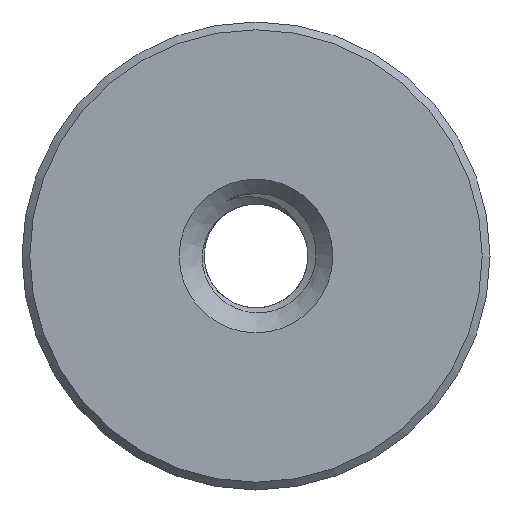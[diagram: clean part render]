
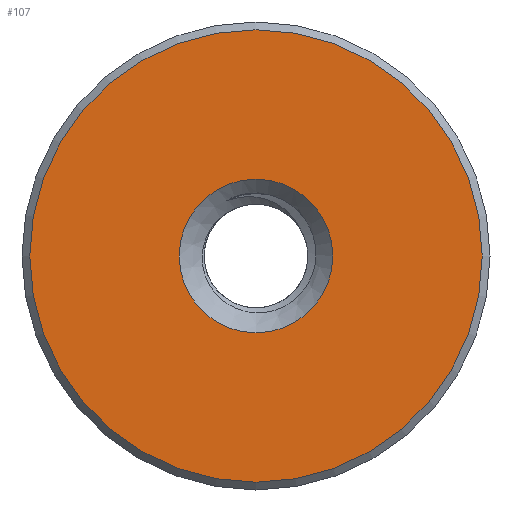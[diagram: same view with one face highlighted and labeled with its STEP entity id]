
A CAD part, left-side view. The second image highlights one B-rep face of the part: STEP entity #107.
In plain terms, the highlighted planar face has unit normal (-1, 0, 0).
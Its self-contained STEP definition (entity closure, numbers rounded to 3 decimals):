
#107=ADVANCED_FACE('',(#2951,#2953),#2955,.T.);
#2951=FACE_BOUND('',#2952,.T.);
#2952=EDGE_LOOP('',(#3450));
#2953=FACE_BOUND('',#2954,.T.);
#2954=EDGE_LOOP('',(#3451));
#2955=PLANE('',#2956);
#2956=AXIS2_PLACEMENT_3D('',#2957,#2958,#2959);
#2957=CARTESIAN_POINT('',(0.,0.,0.));
#2958=DIRECTION('',(-1.,0.,0.));
#2959=DIRECTION('',(0.,0.,-1.));
#3450=ORIENTED_EDGE('',*,*,#3503,.T.);
#3451=ORIENTED_EDGE('',*,*,#3491,.T.);
#3491=EDGE_CURVE('',#3534,#3534,#3535,.F.);
#3503=EDGE_CURVE('',#3554,#3554,#3555,.T.);
#3534=VERTEX_POINT('',#3859);
#3535=CIRCLE('',#3860,4.923);
#3554=VERTEX_POINT('',#4799);
#3555=CIRCLE('',#4800,14.5);
#3859=CARTESIAN_POINT('',(0.,0.,-4.923));
#3860=AXIS2_PLACEMENT_3D('',#3861,#3862,#3863);
#3861=CARTESIAN_POINT('',(0.,0.,0.));
#3862=DIRECTION('',(-1.,0.,0.));
#3863=DIRECTION('',(0.,0.,-1.));
#4799=CARTESIAN_POINT('',(0.,0.,-14.5));
#4800=AXIS2_PLACEMENT_3D('',#4801,#4802,#4803);
#4801=CARTESIAN_POINT('',(0.,0.,0.));
#4802=DIRECTION('',(-1.,0.,0.));
#4803=DIRECTION('',(0.,0.,-1.));
